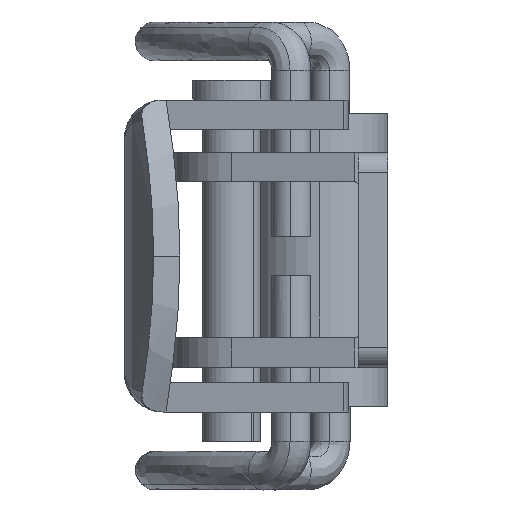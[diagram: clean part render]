
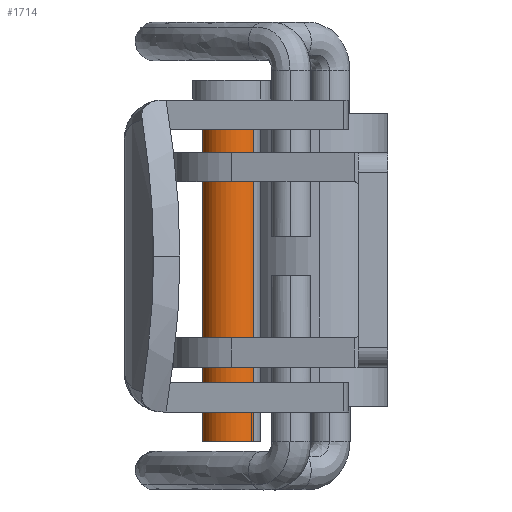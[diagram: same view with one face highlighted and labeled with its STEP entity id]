
A CAD part, left-side view. The second image highlights one B-rep face of the part: STEP entity #1714.
In plain terms, the highlighted cylindrical face has radius 1.5 mm (diameter 3 mm), a partial arc.
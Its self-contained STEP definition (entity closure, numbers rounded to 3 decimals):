
#5 = FACE_OUTER_BOUND ( 'NONE', #8102, .T. ) ;
#195 = CYLINDRICAL_SURFACE ( 'NONE', #5744, 1.5 ) ;
#377 = DIRECTION ( 'NONE',  ( 1., 0., 0. ) ) ;
#672 = AXIS2_PLACEMENT_3D ( 'NONE', #9491, #4968, #377 ) ;
#728 = CARTESIAN_POINT ( 'NONE',  ( -1.5, 0., 18.5 ) ) ;
#779 = DIRECTION ( 'NONE',  ( 1., 0., 0. ) ) ;
#844 = VERTEX_POINT ( 'NONE', #2564 ) ;
#1258 = CARTESIAN_POINT ( 'NONE',  ( 1.5, 0., 18.5 ) ) ;
#1714 = ADVANCED_FACE ( 'NONE', ( #5 ), #195, .T. ) ;
#2564 = CARTESIAN_POINT ( 'NONE',  ( 1.5, 0., 18.5 ) ) ;
#2950 = VECTOR ( 'NONE', #5389, 1000. ) ;
#2971 = LINE ( 'NONE', #6169, #2950 ) ;
#3060 = CARTESIAN_POINT ( 'NONE',  ( 0., 0., 18.5 ) ) ;
#3095 = DIRECTION ( 'NONE',  ( -1., 0., 0. ) ) ;
#3114 = CIRCLE ( 'NONE', #6636, 1.5 ) ;
#3156 = DIRECTION ( 'NONE',  ( 0., 0., -1. ) ) ;
#3618 = DIRECTION ( 'NONE',  ( 0., 0., -1. ) ) ;
#3818 = VERTEX_POINT ( 'NONE', #728 ) ;
#4557 = CIRCLE ( 'NONE', #672, 1.5 ) ;
#4968 = DIRECTION ( 'NONE',  ( 0., 0., 1. ) ) ;
#5323 = VERTEX_POINT ( 'NONE', #8962 ) ;
#5355 = DIRECTION ( 'NONE',  ( 0., 0., 1. ) ) ;
#5389 = DIRECTION ( 'NONE',  ( 0., 0., -1. ) ) ;
#5455 = VECTOR ( 'NONE', #3618, 1000. ) ;
#5565 = LINE ( 'NONE', #1258, #5455 ) ;
#5744 = AXIS2_PLACEMENT_3D ( 'NONE', #3060, #3156, #3095 ) ;
#6169 = CARTESIAN_POINT ( 'NONE',  ( -1.5, 0., 18.5 ) ) ;
#6353 = EDGE_CURVE ( 'NONE', #844, #3818, #4557, .T. ) ;
#6496 = EDGE_CURVE ( 'NONE', #844, #5323, #5565, .T. ) ;
#6544 = ORIENTED_EDGE ( 'NONE', *, *, #6496, .T. ) ;
#6601 = EDGE_CURVE ( 'NONE', #5323, #8788, #3114, .T. ) ;
#6636 = AXIS2_PLACEMENT_3D ( 'NONE', #9878, #5355, #779 ) ;
#6640 = EDGE_CURVE ( 'NONE', #3818, #8788, #2971, .T. ) ;
#6945 = CARTESIAN_POINT ( 'NONE',  ( -1.5, 0., 1. ) ) ;
#8102 = EDGE_LOOP ( 'NONE', ( #9249, #6544, #8752, #8762 ) ) ;
#8752 = ORIENTED_EDGE ( 'NONE', *, *, #6601, .T. ) ;
#8762 = ORIENTED_EDGE ( 'NONE', *, *, #6640, .F. ) ;
#8788 = VERTEX_POINT ( 'NONE', #6945 ) ;
#8962 = CARTESIAN_POINT ( 'NONE',  ( 1.5, 0., 1. ) ) ;
#9249 = ORIENTED_EDGE ( 'NONE', *, *, #6353, .F. ) ;
#9491 = CARTESIAN_POINT ( 'NONE',  ( 0., 0., 18.5 ) ) ;
#9878 = CARTESIAN_POINT ( 'NONE',  ( 0., 0., 1. ) ) ;
